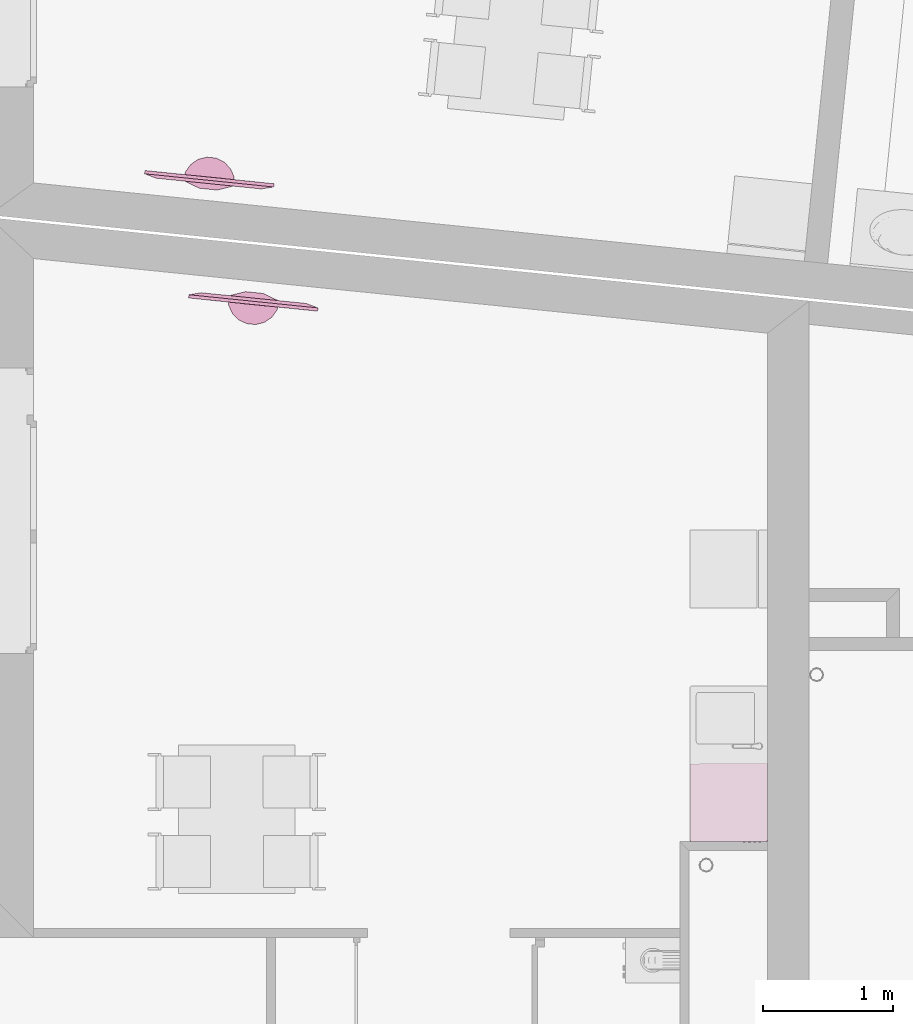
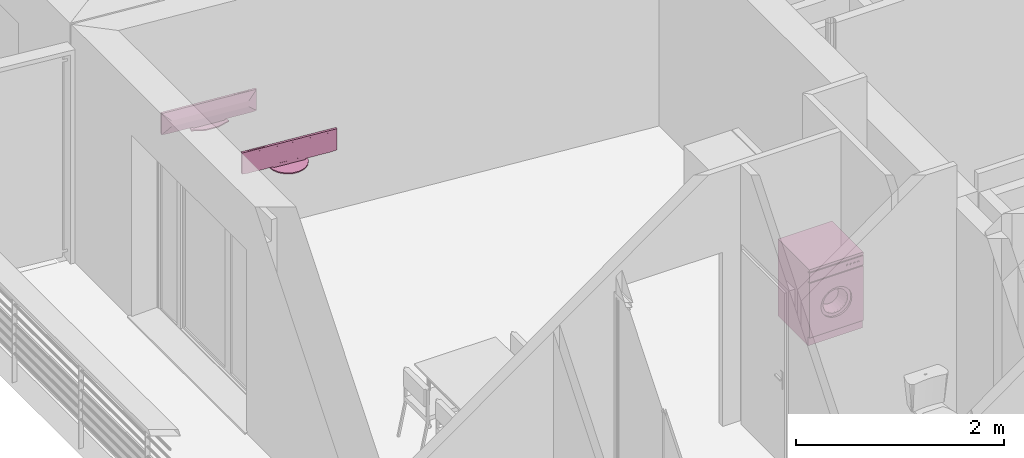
# One storey, part 135 of 171: 3 furnishings.
"""IFC2X3 building model written with IfcOpenShell, lengths in millimetres."""

from ifc_helpers import new_model, entity, si_unit, converted_unit, derived_unit, money_unit, direction, frame, origin_with_axes, place, context, subcontext, project, spatial, open_shell, faceted_brep, surface_model, source, transform, mapped, type_object, element, save


model = new_model("IFC2X3")

# Units and contexts
model_context = context("Model", 3, precision=0.01, world=origin_with_axes(), true_north=direction((0.0, 1.0)))
body_context = subcontext(model_context, "Body", "Model", "MODEL_VIEW")
ifc_project = project(units=[si_unit("LENGTHUNIT", "METRE", prefix="MILLI"), si_unit("AREAUNIT", "SQUARE_METRE"), si_unit("VOLUMEUNIT", "CUBIC_METRE"), converted_unit("PLANEANGLEUNIT", "DEGREE", entity("IfcPlaneAngleMeasure", 0.0174532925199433), si_unit("PLANEANGLEUNIT", "RADIAN"), dimensions=[0, 0, 0, 0, 0, 0, 0]), money_unit("USD"), converted_unit("TIMEUNIT", "Year", entity("IfcTimeMeasure", 31557600.0), si_unit("TIMEUNIT", "SECOND"), dimensions=[0, 0, 1, 0, 0, 0, 0]), si_unit("MASSUNIT", "GRAM", prefix="KILO"), si_unit("THERMODYNAMICTEMPERATUREUNIT", "DEGREE_CELSIUS"), si_unit("LUMINOUSINTENSITYUNIT", "LUMEN"), si_unit("ENERGYUNIT", "JOULE", prefix="MEGA"), derived_unit("THERMALCONDUCTANCEUNIT", [(si_unit("POWERUNIT", "WATT"), 1), (si_unit("LENGTHUNIT", "METRE"), -1), (si_unit("THERMODYNAMICTEMPERATUREUNIT", "KELVIN"), -1)]), derived_unit("SPECIFICHEATCAPACITYUNIT", [(si_unit("ENERGYUNIT", "JOULE"), 1), (si_unit("MASSUNIT", "GRAM", prefix="KILO"), -1), (si_unit("THERMODYNAMICTEMPERATUREUNIT", "KELVIN"), -1)]), derived_unit("MASSDENSITYUNIT", [(si_unit("MASSUNIT", "GRAM", prefix="KILO"), 1), (si_unit("VOLUMEUNIT", "CUBIC_METRE"), -1)])], contexts=[model_context])

# Site, building, storey
site_placement = place(None, origin_with_axes())
site = spatial("IfcSite", under=ifc_project, at=site_placement, Name="Site", CompositionType="ELEMENT")
building_placement = place(site_placement, origin_with_axes())
building = spatial("IfcBuilding", under=site, at=building_placement, Name="Bâtiment", CompositionType="ELEMENT")
storey_placement = place(building_placement, frame((0.0, 0.0, 3000.0), z_axis=(0.0, 0.0, 1.0), x_axis=(1.0, 0.0, 0.0)))
storey = spatial("IfcBuildingStorey", under=building, at=storey_placement, Name="rdc", CompositionType="ELEMENT", Elevation=3000.0)

# Furnishings
furnishing_element_type_1 = type_object("IfcFurnishingElementType", Name="Machine à laver")
shared_shape_1 = source(origin_with_axes(), body_context, "Body", "SurfaceModel", [
    faceted_brep([(0.0, 20.0, 100.0), (0.0, 0.0, 100.0), (-600.0, 0.0, 100.0), (-600.0, 20.0, 100.0), (0.0, 20.00000000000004, 740.0), (0.0, 0.0, 740.0), (-600.0, 0.0, 740.0), (-471.4285714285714, 0.0, 420.0000000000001), (-465.5872845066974, 0.0, 464.3689791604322), (-448.4614977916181, 0.0, 505.7142857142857), (-421.2183053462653, 0.0, 541.2183053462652), (-385.7142857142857, 0.0, 568.4614977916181), (-344.3689791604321, 0.0, 585.5872845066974), (-300.0000000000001, 0.0, 591.4285714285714), (-255.6310208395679, 0.0, 585.5872845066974), (-214.2857142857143, 0.0, 568.4614977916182), (-178.7816946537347, 0.0, 541.2183053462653), (-151.5385022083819, 0.0, 505.7142857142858), (-134.4127154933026, 0.0, 464.3689791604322), (-128.5714285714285, 0.0, 420.0000000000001), (-134.4127154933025, 0.0, 375.6310208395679), (-151.5385022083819, 0.0, 334.2857142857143), (-178.7816946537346, 0.0, 298.7816946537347), (-214.2857142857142, 0.0, 271.5385022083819), (-255.6310208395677, 0.0, 254.4127154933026), (-299.9999999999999, 0.0, 248.5714285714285), (-344.368979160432, 0.0, 254.4127154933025), (-385.7142857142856, 0.0, 271.5385022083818), (-421.2183053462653, 0.0, 298.7816946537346), (-448.4614977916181, 0.0, 334.2857142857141), (-465.5872845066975, 0.0, 375.6310208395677), (-600.0, 20.00000000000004, 740.0), (-471.4285714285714, 20.00000000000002, 420.0000000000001), (-465.5872845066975, 20.00000000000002, 375.6310208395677), (-448.4614977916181, 20.00000000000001, 334.2857142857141), (-421.2183053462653, 20.00000000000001, 298.7816946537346), (-385.7142857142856, 20.00000000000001, 271.5385022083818), (-344.368979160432, 20.00000000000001, 254.4127154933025), (-299.9999999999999, 20.00000000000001, 248.5714285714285), (-255.6310208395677, 20.00000000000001, 254.4127154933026), (-214.2857142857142, 20.00000000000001, 271.5385022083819), (-178.7816946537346, 20.00000000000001, 298.7816946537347), (-151.5385022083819, 20.00000000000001, 334.2857142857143), (-134.4127154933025, 20.00000000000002, 375.6310208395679), (-128.5714285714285, 20.00000000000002, 420.0000000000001), (-134.4127154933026, 20.00000000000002, 464.3689791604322), (-151.5385022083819, 20.00000000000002, 505.7142857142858), (-178.7816946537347, 20.00000000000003, 541.2183053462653), (-214.2857142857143, 20.00000000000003, 568.4614977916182), (-255.6310208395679, 20.00000000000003, 585.5872845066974), (-300.0000000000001, 20.00000000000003, 591.4285714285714), (-344.3689791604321, 20.00000000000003, 585.5872845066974), (-385.7142857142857, 20.00000000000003, 568.4614977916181), (-421.2183053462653, 20.00000000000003, 541.2183053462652), (-448.4614977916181, 20.00000000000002, 505.7142857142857), (-465.5872845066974, 20.00000000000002, 464.3689791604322)], [[[0, 1, 2, 3]], [[4, 5, 1, 0]], [[1, 5, 6, 2], [7, 8, 9, 10, 11, 12, 13, 14, 15, 16, 17, 18, 19, 20, 21, 22, 23, 24, 25, 26, 27, 28, 29, 30]], [[3, 2, 6, 31]], [[0, 3, 31, 4], [32, 33, 34, 35, 36, 37, 38, 39, 40, 41, 42, 43, 44, 45, 46, 47, 48, 49, 50, 51, 52, 53, 54, 55]], [[31, 6, 5, 4]], [[55, 8, 7, 32]], [[54, 9, 8, 55]], [[53, 10, 9, 54]], [[52, 11, 10, 53]], [[51, 12, 11, 52]], [[50, 13, 12, 51]], [[49, 14, 13, 50]], [[48, 15, 14, 49]], [[47, 16, 15, 48]], [[46, 17, 16, 47]], [[45, 18, 17, 46]], [[44, 19, 18, 45]], [[43, 20, 19, 44]], [[42, 21, 20, 43]], [[41, 22, 21, 42]], [[40, 23, 22, 41]], [[39, 24, 23, 40]], [[38, 25, 24, 39]], [[37, 26, 25, 38]], [[36, 27, 26, 37]], [[35, 28, 27, 36]], [[34, 29, 28, 35]], [[33, 30, 29, 34]], [[32, 7, 30, 33]]]),
    faceted_brep([(-471.4285714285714, 40.00000000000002, 420.0000000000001), (-471.4285714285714, 20.00000000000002, 420.0000000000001), (-465.5872845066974, 20.00000000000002, 464.3689791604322), (-465.5872845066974, 40.00000000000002, 464.3689791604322), (-465.5872845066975, 40.00000000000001, 375.6310208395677), (-465.5872845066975, 20.00000000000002, 375.6310208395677), (-448.4614977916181, 20.00000000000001, 334.2857142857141), (-421.2183053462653, 20.00000000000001, 298.7816946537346), (-385.7142857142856, 20.00000000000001, 271.5385022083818), (-344.368979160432, 20.00000000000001, 254.4127154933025), (-299.9999999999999, 20.00000000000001, 248.5714285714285), (-255.6310208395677, 20.00000000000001, 254.4127154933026), (-214.2857142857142, 20.00000000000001, 271.5385022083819), (-178.7816946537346, 20.00000000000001, 298.7816946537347), (-151.5385022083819, 20.00000000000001, 334.2857142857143), (-134.4127154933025, 20.00000000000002, 375.6310208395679), (-128.5714285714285, 20.00000000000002, 420.0000000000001), (-134.4127154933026, 20.00000000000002, 464.3689791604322), (-151.5385022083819, 20.00000000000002, 505.7142857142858), (-178.7816946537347, 20.00000000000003, 541.2183053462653), (-214.2857142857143, 20.00000000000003, 568.4614977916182), (-255.6310208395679, 20.00000000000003, 585.5872845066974), (-300.0000000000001, 20.00000000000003, 591.4285714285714), (-344.3689791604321, 20.00000000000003, 585.5872845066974), (-385.7142857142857, 20.00000000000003, 568.4614977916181), (-421.2183053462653, 20.00000000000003, 541.2183053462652), (-448.4614977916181, 20.00000000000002, 505.7142857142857), (-437.1428571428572, 20.00000000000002, 420.0000000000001), (-432.469827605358, 20.00000000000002, 455.4951833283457), (-418.7691982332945, 20.00000000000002, 488.5714285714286), (-396.9746442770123, 20.00000000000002, 516.9746442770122), (-368.5714285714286, 20.00000000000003, 538.7691982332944), (-335.4951833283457, 20.00000000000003, 552.469827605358), (-300.0000000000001, 20.00000000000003, 557.1428571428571), (-264.5048166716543, 20.00000000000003, 552.469827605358), (-231.4285714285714, 20.00000000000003, 538.7691982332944), (-203.0253557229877, 20.00000000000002, 516.9746442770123), (-181.2308017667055, 20.00000000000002, 488.5714285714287), (-167.530172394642, 20.00000000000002, 455.4951833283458), (-162.8571428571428, 20.00000000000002, 420.0000000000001), (-167.530172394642, 20.00000000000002, 384.5048166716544), (-181.2308017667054, 20.00000000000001, 351.4285714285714), (-203.0253557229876, 20.00000000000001, 323.0253557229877), (-231.4285714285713, 20.00000000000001, 301.2308017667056), (-264.5048166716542, 20.00000000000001, 287.530172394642), (-299.9999999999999, 20.00000000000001, 282.8571428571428), (-335.4951833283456, 20.00000000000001, 287.530172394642), (-368.5714285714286, 20.00000000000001, 301.2308017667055), (-396.9746442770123, 20.00000000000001, 323.0253557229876), (-418.7691982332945, 20.00000000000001, 351.4285714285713), (-432.469827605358, 20.00000000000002, 384.5048166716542), (-448.4614977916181, 40.00000000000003, 505.7142857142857), (-421.2183053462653, 40.00000000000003, 541.2183053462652), (-385.7142857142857, 40.00000000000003, 568.4614977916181), (-344.3689791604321, 40.00000000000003, 585.5872845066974), (-300.0000000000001, 40.00000000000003, 591.4285714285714), (-255.6310208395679, 40.00000000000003, 585.5872845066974), (-214.2857142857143, 40.00000000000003, 568.4614977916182), (-178.7816946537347, 40.00000000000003, 541.2183053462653), (-151.5385022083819, 40.00000000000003, 505.7142857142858), (-134.4127154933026, 40.00000000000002, 464.3689791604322), (-128.5714285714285, 40.00000000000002, 420.0000000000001), (-134.4127154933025, 40.00000000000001, 375.6310208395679), (-151.5385022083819, 40.00000000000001, 334.2857142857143), (-178.7816946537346, 40.00000000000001, 298.7816946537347), (-214.2857142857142, 40.00000000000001, 271.5385022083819), (-255.6310208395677, 40.00000000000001, 254.4127154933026), (-299.9999999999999, 40.00000000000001, 248.5714285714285), (-344.368979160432, 40.00000000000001, 254.4127154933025), (-385.7142857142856, 40.00000000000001, 271.5385022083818), (-421.2183053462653, 40.00000000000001, 298.7816946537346), (-448.4614977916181, 40.00000000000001, 334.2857142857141), (-437.1428571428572, 40.00000000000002, 420.0000000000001), (-432.469827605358, 40.00000000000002, 384.5048166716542), (-418.7691982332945, 40.00000000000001, 351.4285714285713), (-396.9746442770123, 40.00000000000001, 323.0253557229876), (-368.5714285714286, 40.00000000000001, 301.2308017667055), (-335.4951833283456, 40.00000000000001, 287.530172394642), (-299.9999999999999, 40.00000000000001, 282.8571428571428), (-264.5048166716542, 40.00000000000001, 287.530172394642), (-231.4285714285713, 40.00000000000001, 301.2308017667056), (-203.0253557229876, 40.00000000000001, 323.0253557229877), (-181.2308017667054, 40.00000000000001, 351.4285714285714), (-167.530172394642, 40.00000000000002, 384.5048166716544), (-162.8571428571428, 40.00000000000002, 420.0000000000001), (-167.530172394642, 40.00000000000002, 455.4951833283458), (-181.2308017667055, 40.00000000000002, 488.5714285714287), (-203.0253557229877, 40.00000000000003, 516.9746442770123), (-231.4285714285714, 40.00000000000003, 538.7691982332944), (-264.5048166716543, 40.00000000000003, 552.469827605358), (-300.0000000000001, 40.00000000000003, 557.1428571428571), (-335.4951833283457, 40.00000000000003, 552.469827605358), (-368.5714285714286, 40.00000000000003, 538.7691982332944), (-396.9746442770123, 40.00000000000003, 516.9746442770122), (-418.7691982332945, 40.00000000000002, 488.5714285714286), (-432.469827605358, 40.00000000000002, 455.4951833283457)], [[[0, 1, 2, 3]], [[4, 5, 1, 0]], [[1, 5, 6, 7, 8, 9, 10, 11, 12, 13, 14, 15, 16, 17, 18, 19, 20, 21, 22, 23, 24, 25, 26, 2], [27, 28, 29, 30, 31, 32, 33, 34, 35, 36, 37, 38, 39, 40, 41, 42, 43, 44, 45, 46, 47, 48, 49, 50]], [[3, 2, 26, 51]], [[0, 3, 51, 52, 53, 54, 55, 56, 57, 58, 59, 60, 61, 62, 63, 64, 65, 66, 67, 68, 69, 70, 71, 4], [72, 73, 74, 75, 76, 77, 78, 79, 80, 81, 82, 83, 84, 85, 86, 87, 88, 89, 90, 91, 92, 93, 94, 95]], [[71, 6, 5, 4]], [[70, 7, 6, 71]], [[69, 8, 7, 70]], [[68, 9, 8, 69]], [[67, 10, 9, 68]], [[66, 11, 10, 67]], [[65, 12, 11, 66]], [[64, 13, 12, 65]], [[63, 14, 13, 64]], [[62, 15, 14, 63]], [[61, 16, 15, 62]], [[60, 17, 16, 61]], [[59, 18, 17, 60]], [[58, 19, 18, 59]], [[57, 20, 19, 58]], [[56, 21, 20, 57]], [[55, 22, 21, 56]], [[54, 23, 22, 55]], [[53, 24, 23, 54]], [[52, 25, 24, 53]], [[51, 26, 25, 52]], [[95, 28, 27, 72]], [[94, 29, 28, 95]], [[93, 30, 29, 94]], [[92, 31, 30, 93]], [[91, 32, 31, 92]], [[90, 33, 32, 91]], [[89, 34, 33, 90]], [[88, 35, 34, 89]], [[87, 36, 35, 88]], [[86, 37, 36, 87]], [[85, 38, 37, 86]], [[84, 39, 38, 85]], [[83, 40, 39, 84]], [[82, 41, 40, 83]], [[81, 42, 41, 82]], [[80, 43, 42, 81]], [[79, 44, 43, 80]], [[78, 45, 44, 79]], [[77, 46, 45, 78]], [[76, 47, 46, 77]], [[75, 48, 47, 76]], [[74, 49, 48, 75]], [[73, 50, 49, 74]], [[72, 27, 50, 73]]]),
    surface_model("IfcShellBasedSurfaceModel", [(-264.5048166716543, 39.99999999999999, 552.469827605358), (-273.3786125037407, 140.0, 519.3523707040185), (-300.0, 140.0, 522.8571428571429), (-300.0, 39.99999999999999, 557.1428571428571), (-231.4285714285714, 39.99999999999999, 538.7691982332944), (-248.5714285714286, 140.0, 509.0768986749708), (-227.2690167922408, 140.0, 492.7309832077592), (-210.9231013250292, 140.0, 471.4285714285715), (-200.6476292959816, 140.0, 446.6213874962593), (-197.1428571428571, 140.0, 420.0000000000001), (-200.6476292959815, 140.0, 393.3786125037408), (-210.9231013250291, 140.0, 368.5714285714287), (-227.2690167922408, 140.0, 347.2690167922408), (-248.5714285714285, 140.0, 330.9231013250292), (-273.3786125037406, 140.0, 320.6476292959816), (-299.9999999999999, 140.0, 317.1428571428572), (-326.6213874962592, 140.0, 320.6476292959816), (-351.4285714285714, 140.0, 330.9231013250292), (-372.7309832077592, 140.0, 347.2690167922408), (-389.0768986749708, 140.0, 368.5714285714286), (-399.3523707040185, 140.0, 393.3786125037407), (-402.8571428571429, 140.0, 420.0), (-399.3523707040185, 140.0, 446.6213874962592), (-389.0768986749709, 140.0, 471.4285714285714), (-372.7309832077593, 140.0, 492.7309832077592), (-351.4285714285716, 140.0, 509.0768986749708), (-326.6213874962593, 140.0, 519.3523707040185), (-335.4951833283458, 39.99999999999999, 552.469827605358), (-203.0253557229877, 39.99999999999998, 516.9746442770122), (-181.2308017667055, 39.99999999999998, 488.5714285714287), (-167.5301723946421, 39.99999999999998, 455.4951833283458), (-162.8571428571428, 39.99999999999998, 420.0000000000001), (-167.530172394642, 39.99999999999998, 384.5048166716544), (-181.2308017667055, 39.99999999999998, 351.4285714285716), (-203.0253557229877, 39.99999999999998, 323.0253557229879), (-231.4285714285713, 39.99999999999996, 301.2308017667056), (-264.5048166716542, 39.99999999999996, 287.5301723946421), (-299.9999999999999, 39.99999999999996, 282.8571428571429), (-335.4951833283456, 39.99999999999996, 287.5301723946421), (-368.5714285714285, 39.99999999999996, 301.2308017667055), (-396.9746442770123, 39.99999999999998, 323.0253557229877), (-418.7691982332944, 39.99999999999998, 351.4285714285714), (-432.469827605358, 39.99999999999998, 384.5048166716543), (-437.1428571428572, 39.99999999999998, 419.9999999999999), (-432.469827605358, 39.99999999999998, 455.4951833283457), (-418.7691982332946, 39.99999999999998, 488.5714285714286), (-396.9746442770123, 39.99999999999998, 516.9746442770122), (-368.5714285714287, 39.99999999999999, 538.7691982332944)], [open_shell([[[0, 1, 2, 3]], [[4, 5, 1, 0]], [[2, 1, 5, 6, 7, 8, 9, 10, 11, 12, 13, 14, 15, 16, 17, 18, 19, 20, 21, 22, 23, 24, 25, 26]], [[3, 2, 26, 27]], [[28, 6, 5, 4]], [[29, 7, 6, 28]], [[30, 8, 7, 29]], [[31, 9, 8, 30]], [[32, 10, 9, 31]], [[33, 11, 10, 32]], [[34, 12, 11, 33]], [[35, 13, 12, 34]], [[36, 14, 13, 35]], [[37, 15, 14, 36]], [[38, 16, 15, 37]], [[39, 17, 16, 38]], [[40, 18, 17, 39]], [[41, 19, 18, 40]], [[42, 20, 19, 41]], [[43, 21, 20, 42]], [[44, 22, 21, 43]], [[45, 23, 22, 44]], [[46, 24, 23, 45]], [[47, 25, 24, 46]], [[27, 26, 25, 47]]])]),
    surface_model("IfcShellBasedSurfaceModel", [(0.0, 20.0, 100.0), (0.0, 600.0, 99.99999999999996), (0.0, 600.0, 870.0), (0.0, 20.00000000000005, 870.0)], [open_shell([[[0, 1, 2, 3]]])]),
    surface_model("IfcShellBasedSurfaceModel", [(-600.0, 19.99999999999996, 100.0), (-600.0, 599.9999999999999, 99.99999999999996), (-600.0, 599.9999999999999, 870.0), (-600.0, 20.00000000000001, 870.0)], [open_shell([[[0, 1, 2, 3]]])]),
    surface_model("IfcShellBasedSurfaceModel", [(0.0, 600.0, 100.0), (-600.0, 600.0, 100.0), (-600.0, 600.0, 870.0), (0.0, 600.0, 870.0)], [open_shell([[[0, 1, 2, 3]]])]),
    faceted_brep([(0.0, 20.0, 0.0), (0.0, 20.0, 100.0), (-600.0, 20.0, 100.0), (-600.0, 20.0, 0.0), (0.0, 600.0, 0.0), (0.0, 600.0, 100.0), (-600.0, 600.0, 100.0), (-600.0, 600.0, 0.0)], [[[0, 1, 2, 3]], [[4, 5, 1, 0]], [[1, 5, 6, 2]], [[3, 2, 6, 7]], [[0, 3, 7, 4]], [[7, 6, 5, 4]]]),
    faceted_brep([(0.0, 20.0, 750.0), (0.0, 0.0, 750.0), (-600.0, 0.0, 750.0), (-600.0, 20.0, 750.0), (0.0, 20.00000000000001, 860.0), (0.0, 0.0, 860.0), (-600.0, 0.0, 860.0), (-600.0, 20.00000000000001, 860.0)], [[[0, 1, 2, 3]], [[4, 5, 1, 0]], [[1, 5, 6, 2]], [[3, 2, 6, 7]], [[0, 3, 7, 4]], [[7, 6, 5, 4]]]),
    surface_model("IfcShellBasedSurfaceModel", [(0.0, 20.0, 740.0), (-600.0, 20.0, 740.0), (-600.0, 20.00000000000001, 870.0), (0.0, 20.00000000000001, 870.0)], [open_shell([[[0, 1, 2, 3]]])]),
    faceted_brep([(0.0, 0.0, 870.0), (0.0, 0.0, 900.0), (-600.0, 0.0, 900.0), (-600.0, 0.0, 870.0), (0.0, 600.0, 870.0), (0.0, 600.0, 900.0), (-600.0, 600.0, 900.0), (-600.0, 600.0, 870.0)], [[[0, 1, 2, 3]], [[4, 5, 1, 0]], [[1, 5, 6, 2]], [[3, 2, 6, 7]], [[0, 3, 7, 4]], [[7, 6, 5, 4]]]),
    faceted_brep([(-68.66025403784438, 0.0, 804.9999999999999), (-69.99999999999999, 0.0, 809.9999999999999), (-68.66025403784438, 0.0, 815.0), (-65.0, 0.0, 818.6602540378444), (-60.0, 0.0, 820.0), (-55.0, 0.0, 818.6602540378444), (-51.33974596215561, 0.0, 815.0), (-49.99999999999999, 0.0, 809.9999999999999), (-51.33974596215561, 0.0, 804.9999999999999), (-54.99999999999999, 0.0, 801.3397459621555), (-59.99999999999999, 0.0, 799.9999999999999), (-64.99999999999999, 0.0, 801.3397459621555), (-68.66025403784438, -10.0, 804.9999999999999), (-69.99999999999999, -10.0, 809.9999999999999), (-68.66025403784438, -10.0, 815.0), (-65.0, -10.0, 818.6602540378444), (-60.0, -10.0, 820.0), (-55.0, -10.0, 818.6602540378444), (-51.33974596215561, -10.0, 815.0), (-49.99999999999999, -10.0, 809.9999999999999), (-51.33974596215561, -10.0, 804.9999999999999), (-54.99999999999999, -10.0, 801.3397459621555), (-59.99999999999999, -10.0, 799.9999999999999), (-64.99999999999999, -10.0, 801.3397459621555)], [[[0, 1, 2, 3, 4, 5, 6, 7, 8, 9, 10, 11]], [[0, 12, 13, 1]], [[1, 13, 14, 2]], [[2, 14, 15, 3]], [[3, 15, 16, 4]], [[4, 16, 17, 5]], [[5, 17, 18, 6]], [[6, 18, 19, 7]], [[7, 19, 20, 8]], [[8, 20, 21, 9]], [[9, 21, 22, 10]], [[10, 22, 23, 11]], [[11, 23, 12, 0]], [[12, 23, 22, 21, 20, 19, 18, 17, 16, 15, 14, 13]]]),
    faceted_brep([(-108.6602540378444, 0.0, 804.9999999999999), (-110.0, 0.0, 809.9999999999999), (-108.6602540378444, 0.0, 815.0), (-105.0, 0.0, 818.6602540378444), (-100.0, 0.0, 820.0), (-95.0, 0.0, 818.6602540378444), (-91.33974596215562, 0.0, 815.0), (-90.00000000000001, 0.0, 809.9999999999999), (-91.33974596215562, 0.0, 804.9999999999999), (-95.0, 0.0, 801.3397459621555), (-99.99999999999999, 0.0, 799.9999999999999), (-105.0, 0.0, 801.3397459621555), (-108.6602540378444, -10.0, 804.9999999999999), (-110.0, -10.0, 809.9999999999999), (-108.6602540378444, -10.0, 815.0), (-105.0, -10.0, 818.6602540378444), (-100.0, -10.0, 820.0), (-95.0, -10.0, 818.6602540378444), (-91.33974596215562, -10.0, 815.0), (-90.00000000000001, -10.0, 809.9999999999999), (-91.33974596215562, -10.0, 804.9999999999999), (-95.0, -10.0, 801.3397459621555), (-99.99999999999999, -10.0, 799.9999999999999), (-105.0, -10.0, 801.3397459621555)], [[[0, 1, 2, 3, 4, 5, 6, 7, 8, 9, 10, 11]], [[0, 12, 13, 1]], [[1, 13, 14, 2]], [[2, 14, 15, 3]], [[3, 15, 16, 4]], [[4, 16, 17, 5]], [[5, 17, 18, 6]], [[6, 18, 19, 7]], [[7, 19, 20, 8]], [[8, 20, 21, 9]], [[9, 21, 22, 10]], [[10, 22, 23, 11]], [[11, 23, 12, 0]], [[12, 23, 22, 21, 20, 19, 18, 17, 16, 15, 14, 13]]]),
    faceted_brep([(-148.6602540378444, 0.0, 804.9999999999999), (-150.0, 0.0, 809.9999999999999), (-148.6602540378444, 0.0, 815.0), (-145.0, 0.0, 818.6602540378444), (-140.0, 0.0, 820.0), (-135.0, 0.0, 818.6602540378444), (-131.3397459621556, 0.0, 815.0), (-130.0, 0.0, 809.9999999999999), (-131.3397459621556, 0.0, 804.9999999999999), (-135.0, 0.0, 801.3397459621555), (-140.0, 0.0, 799.9999999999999), (-145.0, 0.0, 801.3397459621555), (-148.6602540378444, -10.0, 804.9999999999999), (-150.0, -10.0, 809.9999999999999), (-148.6602540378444, -10.0, 815.0), (-145.0, -10.0, 818.6602540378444), (-140.0, -10.0, 820.0), (-135.0, -10.0, 818.6602540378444), (-131.3397459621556, -10.0, 815.0), (-130.0, -10.0, 809.9999999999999), (-131.3397459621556, -10.0, 804.9999999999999), (-135.0, -10.0, 801.3397459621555), (-140.0, -10.0, 799.9999999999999), (-145.0, -10.0, 801.3397459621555)], [[[0, 1, 2, 3, 4, 5, 6, 7, 8, 9, 10, 11]], [[0, 12, 13, 1]], [[1, 13, 14, 2]], [[2, 14, 15, 3]], [[3, 15, 16, 4]], [[4, 16, 17, 5]], [[5, 17, 18, 6]], [[6, 18, 19, 7]], [[7, 19, 20, 8]], [[8, 20, 21, 9]], [[9, 21, 22, 10]], [[10, 22, 23, 11]], [[11, 23, 12, 0]], [[12, 23, 22, 21, 20, 19, 18, 17, 16, 15, 14, 13]]]),
    faceted_brep([(-188.6602540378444, 0.0, 804.9999999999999), (-190.0, 0.0, 809.9999999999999), (-188.6602540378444, 0.0, 815.0), (-185.0, 0.0, 818.6602540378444), (-180.0, 0.0, 820.0), (-175.0, 0.0, 818.6602540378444), (-171.3397459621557, 0.0, 815.0), (-170.0, 0.0, 809.9999999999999), (-171.3397459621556, 0.0, 804.9999999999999), (-175.0, 0.0, 801.3397459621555), (-180.0, 0.0, 799.9999999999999), (-185.0, 0.0, 801.3397459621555), (-188.6602540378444, -10.0, 804.9999999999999), (-190.0, -10.0, 809.9999999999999), (-188.6602540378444, -10.0, 815.0), (-185.0, -10.0, 818.6602540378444), (-180.0, -10.0, 820.0), (-175.0, -10.0, 818.6602540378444), (-171.3397459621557, -10.0, 815.0), (-170.0, -10.0, 809.9999999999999), (-171.3397459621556, -10.0, 804.9999999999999), (-175.0, -10.0, 801.3397459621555), (-180.0, -10.0, 799.9999999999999), (-185.0, -10.0, 801.3397459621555)], [[[0, 1, 2, 3, 4, 5, 6, 7, 8, 9, 10, 11]], [[0, 12, 13, 1]], [[1, 13, 14, 2]], [[2, 14, 15, 3]], [[3, 15, 16, 4]], [[4, 16, 17, 5]], [[5, 17, 18, 6]], [[6, 18, 19, 7]], [[7, 19, 20, 8]], [[8, 20, 21, 9]], [[9, 21, 22, 10]], [[10, 22, 23, 11]], [[11, 23, 12, 0]], [[12, 23, 22, 21, 20, 19, 18, 17, 16, 15, 14, 13]]]),
])
furnishing_placement = place(storey_placement, frame((2224132.822888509, -625671.2207779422, 0.0), z_axis=(0.0, 0.0, 1.0), x_axis=(0.9999996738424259, 0.0008076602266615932, 0.0)))
element("IfcFurnishingElement", 1, at=furnishing_placement, inside=storey, type_object=furnishing_element_type_1, Name="Obj.-019", context=body_context, shape_type="MappedRepresentation", body=[
    mapped(shared_shape_1, transform((0.0, 0.0, 0.0))),
])
furnishing_element_type_2 = type_object("IfcFurnishingElementType", Name="Ecran TV plasma")
shared_shape_2 = source(origin_with_axes(), body_context, "Body", "Brep", [
    faceted_brep([(-300.0, 45.45454545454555, 0.0), (-300.0, 45.45454545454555, 12.72727272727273), (-311.9952377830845, -22.76722074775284, 12.72727272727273), (-311.9952377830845, -22.76722074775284, 0.0), (-300.362869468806, 45.66379498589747, 0.0), (-300.362869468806, 45.66379498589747, 12.72727272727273), (-430.8157560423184, 93.01588086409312, 12.72727272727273), (-569.5967719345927, 92.94321528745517, 12.72727272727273), (-700.0000000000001, 45.45454545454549, 12.72727272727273), (-699.9923846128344, 43.70923835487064, 12.72727272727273), (-687.402263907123, -24.40525330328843, 12.72727272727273), (-652.3327960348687, -84.13989598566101, 12.72727272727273), (-598.9906470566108, -128.3293772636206, 12.72727272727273), (-533.7743345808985, -151.6730637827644, 12.72727272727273), (-464.5067103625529, -151.3708248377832, 12.72727272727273), (-399.4965906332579, -127.4589147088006, 12.72727272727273), (-346.5420938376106, -82.80562387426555, 12.72727272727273), (-346.5420938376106, -82.80562387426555, 0.0), (-399.4965906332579, -127.4589147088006, 0.0), (-464.5067103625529, -151.3708248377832, 0.0), (-533.7743345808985, -151.6730637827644, 0.0), (-598.9906470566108, -128.3293772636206, 0.0), (-652.3327960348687, -84.13989598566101, 0.0), (-687.402263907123, -24.40525330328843, 0.0), (-699.9923846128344, 43.70923835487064, 0.0), (-700.0000000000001, 45.45454545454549, 0.0), (-569.5967719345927, 92.94321528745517, 0.0), (-430.8157560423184, 93.01588086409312, 0.0)], [[[0, 1, 2, 3]], [[4, 5, 1, 0]], [[1, 5, 6, 7, 8, 9, 10, 11, 12, 13, 14, 15, 16, 2]], [[3, 2, 16, 17]], [[0, 3, 17, 18, 19, 20, 21, 22, 23, 24, 25, 26, 27, 4]], [[27, 6, 5, 4]], [[26, 7, 6, 27]], [[25, 8, 7, 26]], [[24, 9, 8, 25]], [[23, 10, 9, 24]], [[22, 11, 10, 23]], [[21, 12, 11, 22]], [[20, 13, 12, 21]], [[19, 14, 13, 20]], [[18, 15, 14, 19]], [[17, 16, 15, 18]]]),
    faceted_brep([(-666.6666666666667, 2.500000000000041, 12.72727272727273), (-666.6666666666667, 2.500000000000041, 25.45454545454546), (-666.6666666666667, 22.50000000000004, 25.45454545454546), (-666.6666666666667, 22.50000000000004, 12.72727272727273), (-333.3333333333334, 2.500000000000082, 12.72727272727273), (-333.3333333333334, 2.500000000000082, 25.45454545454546), (-333.3333333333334, 22.50000000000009, 25.45454545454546), (-333.3333333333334, 22.50000000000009, 12.72727272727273)], [[[0, 1, 2, 3]], [[4, 5, 1, 0]], [[1, 5, 6, 2]], [[3, 2, 6, 7]], [[0, 3, 7, 4]], [[7, 6, 5, 4]]]),
    faceted_brep([(-62.5, -0.2539999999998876, 65.45454545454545), (-62.5, 0.0, 65.45454545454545), (-62.5, 0.0, 254.5454545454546), (-62.5, -0.2539999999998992, 254.5454545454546), (-937.5, -0.2539999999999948, 65.45454545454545), (-937.5, 0.0, 65.45454545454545), (-937.5, 0.0, 254.5454545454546), (-937.5, -0.2540000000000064, 254.5454545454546)], [[[0, 1, 2, 3]], [[4, 5, 1, 0]], [[1, 5, 6, 2]], [[3, 2, 6, 7]], [[0, 3, 7, 4]], [[7, 6, 5, 4]]]),
    faceted_brep([(-937.5, 0.0, 25.45454545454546), (-62.5, 0.0, 25.45454545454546), (0.0, 0.0, 31.81818181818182), (0.0, 0.0, 280.0), (-1000.0, 0.0, 280.0), (-1000.0, 0.0, 31.81818181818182), (-937.5000003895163, 25.00000000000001, 25.4545450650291), (-62.50000038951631, 25.00000000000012, 25.4545450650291), (-3.895163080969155e-07, 25.00000000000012, 31.81818187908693), (-3.895163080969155e-07, 25.00000000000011, 279.9999999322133), (-1000.000000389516, 24.99999999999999, 279.9999999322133), (-1000.000000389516, 25.0, 31.81818187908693), (-934.156616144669, 42.64268163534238, 91.29792930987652), (-906.6987288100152, 50.00000037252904, 118.7558166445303), (-93.30127196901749, 50.00000037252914, 118.7558166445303), (-65.84338463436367, 42.64268163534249, 91.29792930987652), (-93.30127196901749, 50.00000037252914, 186.6987283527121), (-906.6987288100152, 50.00000037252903, 186.6987283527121)], [[[0, 1, 2, 3, 4, 5]], [[0, 6, 7, 1]], [[1, 7, 8, 2]], [[2, 8, 9, 3]], [[3, 9, 10, 4]], [[4, 10, 11, 5]], [[5, 11, 6, 0]], [[6, 12, 13, 14, 15, 7]], [[7, 15, 8]], [[8, 15, 14, 16, 9]], [[9, 16, 17, 10]], [[10, 17, 13, 12, 11]], [[11, 12, 6]], [[17, 16, 14, 13]]]),
    faceted_brep([(-500.0, -0.7937499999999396, 39.45454545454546), (-500.0, 0.0, 39.45454545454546), (-490.0, 0.0, 46.45454545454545), (-490.0, -0.7937499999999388, 46.45454545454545), (-510.0, -0.7937499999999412, 46.45454545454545), (-510.0, 0.0, 46.45454545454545), (-600.0, 0.0, 52.18181818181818), (-400.0, 0.0, 52.18181818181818), (-400.0, -0.7937499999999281, 52.18181818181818), (-600.0, -0.7937499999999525, 52.18181818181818)], [[[0, 1, 2, 3]], [[4, 5, 1, 0]], [[1, 5, 6, 7, 2]], [[3, 2, 7, 8]], [[0, 3, 8, 9, 4]], [[9, 6, 5, 4]], [[8, 7, 6, 9]]]),
    faceted_brep([(-866.6666666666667, 10.0, 280.0), (-866.6666666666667, 10.0, 281.5875), (-933.3333333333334, 9.999999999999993, 281.5875), (-933.3333333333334, 9.999999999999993, 280.0), (-866.6666666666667, 16.25, 280.0), (-866.6666666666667, 16.25, 281.5875), (-933.3333333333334, 16.24999999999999, 281.5875), (-933.3333333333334, 16.24999999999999, 280.0)], [[[0, 1, 2, 3]], [[0, 4, 5, 1]], [[1, 5, 6, 2]], [[2, 6, 7, 3]], [[3, 7, 4, 0]], [[7, 6, 5, 4]]]),
    faceted_brep([(-795.2380952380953, 10.00000000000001, 280.0), (-795.2380952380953, 10.00000000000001, 281.5875), (-861.9047619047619, 10.0, 281.5875), (-861.9047619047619, 10.0, 280.0), (-795.2380952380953, 16.25000000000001, 280.0), (-795.2380952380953, 16.25000000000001, 281.5875), (-861.9047619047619, 16.25, 281.5875), (-861.9047619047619, 16.25, 280.0)], [[[0, 1, 2, 3]], [[0, 4, 5, 1]], [[1, 5, 6, 2]], [[2, 6, 7, 3]], [[3, 7, 4, 0]], [[7, 6, 5, 4]]]),
    faceted_brep([(-757.1428571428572, 10.00000000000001, 280.0), (-757.1428571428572, 10.00000000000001, 281.5875), (-790.4761904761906, 10.00000000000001, 281.5875), (-790.4761904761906, 10.00000000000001, 280.0), (-757.1428571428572, 16.25000000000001, 280.0), (-757.1428571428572, 16.25000000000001, 281.5875), (-790.4761904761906, 16.25000000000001, 281.5875), (-790.4761904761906, 16.25000000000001, 280.0)], [[[0, 1, 2, 3]], [[0, 4, 5, 1]], [[1, 5, 6, 2]], [[2, 6, 7, 3]], [[3, 7, 4, 0]], [[7, 6, 5, 4]]]),
])
for number, where, z_axis, x_axis, name in (
    (2, (2220664.301564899, -621583.1561858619, 800.0000000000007), (0.0, 0.0, 1.0), (0.9948188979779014, -0.1016629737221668, 0.0), "Obj.-034"),
    (3, (2219333.128976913, -620499.4906447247, 800.0000000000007), (0.0, 0.0, 1.0), (-0.9948188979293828, 0.1016629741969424, 0.0), "Obj.-034"),
):
    element("IfcFurnishingElement", number, at=place(storey_placement, frame(where, z_axis=z_axis, x_axis=x_axis)), inside=storey, type_object=furnishing_element_type_2, Name=name, context=body_context, shape_type="MappedRepresentation", body=[
        mapped(shared_shape_2, transform((0.0, 0.0, 0.0))),
    ])

save(model, "model.ifc")
